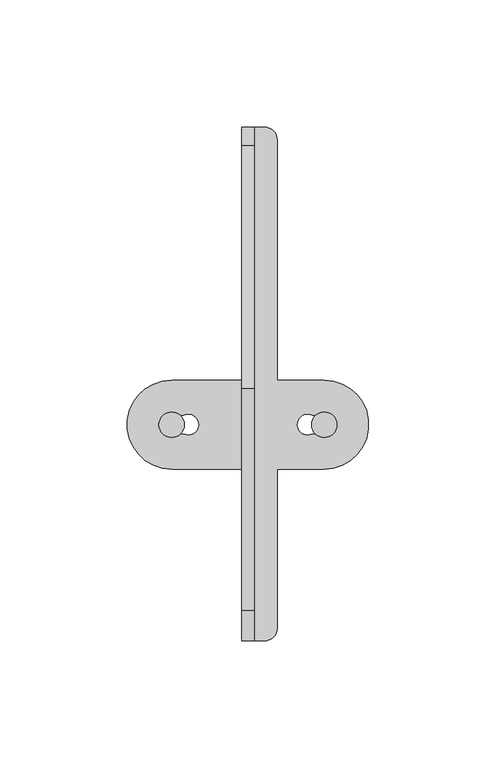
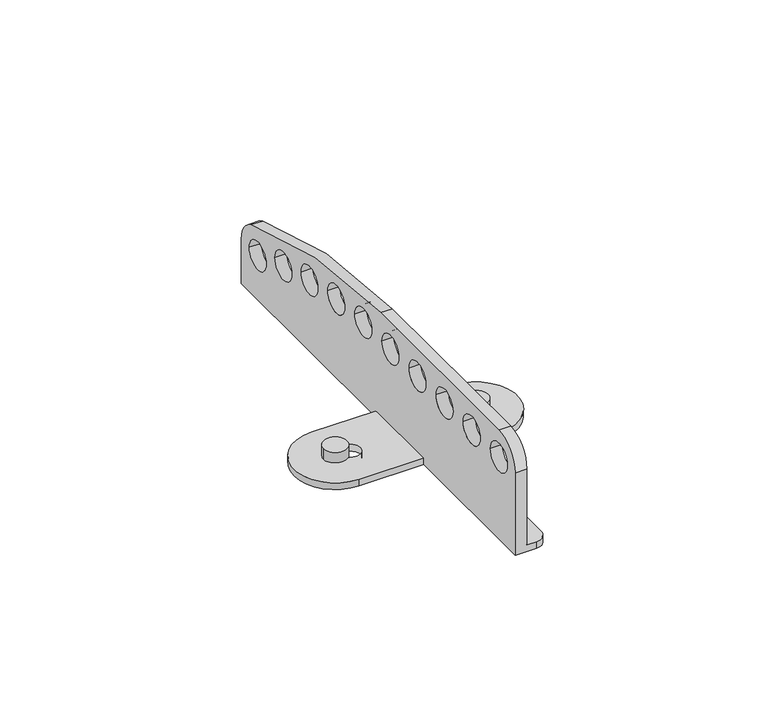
"""IFC4 building model written with IfcOpenShell, lengths in millimetres: proxy geometry, d&b E-Series E8 l E12 Flying Adapter : VP Flying Adapter."""

from ifc_helpers import new_model, si_unit, point, frame, frame_2d, origin, place, context, project, spatial, polyline, circle_curve, trimmed, segment, composite_curve, outline, extrude, source, transform, mapped, element, save
from ifc_brep_helpers import plane_surface, cylinder_surface, revolved_surface, advanced_brep


def communication_devices_d8d2d2e4(model_context):
    return source(origin(), model_context, "Body", "SolidModel", [
        advanced_brep(
        [(2.5, 117.0, 3.0), (2.5, 117.0, 20.0416075), (2.5, 109.8627971, 30.8118727), (2.5, 14.1313666, 49.2328622), (2.5, -73.0, 49.2328622), (2.5, -85.0, 37.2328622), (2.5, -85.0, 3.0), (2.5, 33.2045121, 37.1372648), (2.5, 20.7045121, 37.1372648), (2.5, 53.139556, 35.5325315), (2.5, 40.639556, 35.5325315), (2.5, 72.8873007, 32.045765), (2.5, 60.3873007, 32.045765), (2.5, 92.1826621, 26.7881623), (2.5, 79.6826621, 26.7881623), (2.5, 111.049806, 19.9580874), (2.5, 98.549806, 19.9580874), (2.5, 13.2045121, 37.1372648), (2.5, 0.7045121, 37.1372648), (2.5, -6.7954879, 37.1372648), (2.5, -19.2954879, 37.1372648), (2.5, -26.7954879, 37.1372648), (2.5, -39.2954879, 37.1372648), (2.5, -46.7954879, 37.1372648), (2.5, -59.2954879, 37.1372648), (2.5, -66.7954879, 37.1372648), (2.5, -79.2954879, 37.1372648), (-2.5, -85.0, 37.2328622), (-2.5, -73.0, 49.2328622), (-2.5, 14.1313666, 49.2328622), (-2.5, 109.8627971, 30.8118727), (-2.5, 117.0, 20.0416075), (-2.5, 117.0, 0.0), (-2.5, 17.5, 0.0), (-2.5, 17.5, 3.0), (-2.5, -17.5, 3.0), (-2.5, -17.5, 0.0), (-2.5, -85.0, 0.0), (-2.5, 33.2045121, 37.1372648), (-2.5, 20.7045121, 37.1372648), (-2.5, 53.139556, 35.5325315), (-2.5, 40.639556, 35.5325315), (-2.5, 72.8873007, 32.045765), (-2.5, 60.3873007, 32.045765), (-2.5, 92.1826621, 26.7881623), (-2.5, 79.6826621, 26.7881623), (-2.5, 111.049806, 19.9580874), (-2.5, 98.549806, 19.9580874), (-2.5, 13.2045121, 37.1372648), (-2.5, 0.7045121, 37.1372648), (-2.5, -6.7954879, 37.1372648), (-2.5, -19.2954879, 37.1372648), (-2.5, -26.7954879, 37.1372648), (-2.5, -39.2954879, 37.1372648), (-2.5, -46.7954879, 37.1372648), (-2.5, -59.2954879, 37.1372648), (-2.5, -66.7954879, 37.1372648), (-2.5, -79.2954879, 37.1372648), (6.5, -85.0, 3.0), (11.5, -80.0, 3.0), (11.5, -17.5, 3.0), (30.0, -17.5, 3.0), (30.0, 17.5, 3.0), (11.5, 17.5, 3.0), (11.5, 112.0, 3.0), (6.5, 117.0, 3.0), (25.4364917, 3.5, 3.0), (31.5, 3.5, 3.0), (31.5, -3.5, 3.0), (25.4364917, -3.5, 3.0), (-30.0, 17.5, 3.0), (-30.0, -17.5, 3.0), (-25.4364917, 3.5, 3.0), (-25.4364917, -3.5, 3.0), (-31.5, -3.5, 3.0), (-31.5, 3.5, 3.0), (-30.0, -17.5, 0.0), (-30.0, 17.5, 0.0), (6.5, 117.0, 0.0), (11.5, 112.0, 0.0), (11.5, 17.5, 0.0), (30.0, 17.5, 0.0), (30.0, -17.5, 0.0), (11.5, -17.5, 0.0), (11.5, -80.0, 0.0), (6.5, -85.0, 0.0), (-25.4364917, 3.5, 0.0), (-31.5, 3.5, 0.0), (-31.5, -3.5, 0.0), (-25.4364917, -3.5, 0.0), (25.4364917, 3.5, 0.0), (25.4364917, -3.5, 0.0), (31.5, -3.5, 0.0), (31.5, 3.5, 0.0)],
        [
            (0, 1),
            (1, 2, circle_curve(frame((2.5, 105.3050628, 20.0416075), z_axis=(1.0, 0.0, 0.0), x_axis=(0.0, -1.0, 0.0)), 11.6949372)),
            (2, 3, circle_curve(frame((2.5, 14.1313666, -208.729384), z_axis=(1.0, 0.0, 0.0), x_axis=(0.0, -1.0, 0.0)), 257.9622462)),
            (3, 4),
            (4, 5, circle_curve(frame((2.5, -73.0, 37.2328622), z_axis=(1.0, 0.0, 0.0), x_axis=(0.0, -1.0, 0.0)), 12.0)),
            (5, 6),
            (6, 0),
            (7, 8, circle_curve(frame((2.5, 26.9545121, 37.1372648), z_axis=(-1.0, 0.0, 0.0), x_axis=(0.0, -1.0, 0.0)), 6.25)),
            (8, 7, circle_curve(frame((2.5, 26.9545121, 37.1372648), z_axis=(-1.0, 0.0, 0.0), x_axis=(0.0, -1.0, 0.0)), 6.25)),
            (9, 10, circle_curve(frame((2.5, 46.889556, 35.5325315), z_axis=(-1.0, 0.0, 0.0), x_axis=(0.0, -1.0, 0.0)), 6.25)),
            (10, 9, circle_curve(frame((2.5, 46.889556, 35.5325315), z_axis=(-1.0, 0.0, 0.0), x_axis=(0.0, -1.0, 0.0)), 6.25)),
            (11, 12, circle_curve(frame((2.5, 66.6373007, 32.045765), z_axis=(-1.0, 0.0, 0.0), x_axis=(0.0, -1.0, 0.0)), 6.25)),
            (12, 11, circle_curve(frame((2.5, 66.6373007, 32.045765), z_axis=(-1.0, 0.0, 0.0), x_axis=(0.0, -1.0, 0.0)), 6.25)),
            (13, 14, circle_curve(frame((2.5, 85.9326621, 26.7881623), z_axis=(-1.0, 0.0, 0.0), x_axis=(0.0, -1.0, 0.0)), 6.25)),
            (14, 13, circle_curve(frame((2.5, 85.9326621, 26.7881623), z_axis=(-1.0, 0.0, 0.0), x_axis=(0.0, -1.0, 0.0)), 6.25)),
            (15, 16, circle_curve(frame((2.5, 104.799806, 19.9580874), z_axis=(-1.0, 0.0, 0.0), x_axis=(0.0, -1.0, 0.0)), 6.25)),
            (16, 15, circle_curve(frame((2.5, 104.799806, 19.9580874), z_axis=(-1.0, 0.0, 0.0), x_axis=(0.0, -1.0, 0.0)), 6.25)),
            (17, 18, circle_curve(frame((2.5, 6.9545121, 37.1372648), z_axis=(-1.0, 0.0, 0.0), x_axis=(0.0, -1.0, 0.0)), 6.25)),
            (18, 17, circle_curve(frame((2.5, 6.9545121, 37.1372648), z_axis=(-1.0, 0.0, 0.0), x_axis=(0.0, -1.0, 0.0)), 6.25)),
            (19, 20, circle_curve(frame((2.5, -13.0454879, 37.1372648), z_axis=(-1.0, 0.0, 0.0), x_axis=(0.0, -1.0, 0.0)), 6.25)),
            (20, 19, circle_curve(frame((2.5, -13.0454879, 37.1372648), z_axis=(-1.0, 0.0, 0.0), x_axis=(0.0, -1.0, 0.0)), 6.25)),
            (21, 22, circle_curve(frame((2.5, -33.0454879, 37.1372648), z_axis=(-1.0, 0.0, 0.0), x_axis=(0.0, -1.0, 0.0)), 6.25)),
            (22, 21, circle_curve(frame((2.5, -33.0454879, 37.1372648), z_axis=(-1.0, 0.0, 0.0), x_axis=(0.0, -1.0, 0.0)), 6.25)),
            (23, 24, circle_curve(frame((2.5, -53.0454879, 37.1372648), z_axis=(-1.0, 0.0, 0.0), x_axis=(0.0, -1.0, 0.0)), 6.25)),
            (24, 23, circle_curve(frame((2.5, -53.0454879, 37.1372648), z_axis=(-1.0, 0.0, 0.0), x_axis=(0.0, -1.0, 0.0)), 6.25)),
            (25, 26, circle_curve(frame((2.5, -73.0454879, 37.1372648), z_axis=(-1.0, 0.0, 0.0), x_axis=(0.0, -1.0, 0.0)), 6.25)),
            (26, 25, circle_curve(frame((2.5, -73.0454879, 37.1372648), z_axis=(-1.0, 0.0, 0.0), x_axis=(0.0, -1.0, 0.0)), 6.25)),
            (27, 28, circle_curve(frame((-2.5, -73.0, 37.2328622), z_axis=(-1.0, 0.0, 0.0), x_axis=(0.0, -1.0, 0.0)), 12.0)),
            (28, 29),
            (29, 30, circle_curve(frame((-2.5, 14.1313666, -208.729384), z_axis=(-1.0, 0.0, 0.0), x_axis=(0.0, -1.0, 0.0)), 257.9622462)),
            (30, 31, circle_curve(frame((-2.5, 105.3050628, 20.0416075), z_axis=(-1.0, 0.0, 0.0), x_axis=(0.0, -1.0, 0.0)), 11.6949372)),
            (31, 32),
            (32, 33),
            (33, 34),
            (34, 35),
            (35, 36),
            (36, 37),
            (37, 27),
            (38, 39, circle_curve(frame((-2.5, 26.9545121, 37.1372648), z_axis=(1.0, 0.0, 0.0), x_axis=(0.0, -1.0, 0.0)), 6.25)),
            (39, 38, circle_curve(frame((-2.5, 26.9545121, 37.1372648), z_axis=(1.0, 0.0, 0.0), x_axis=(0.0, -1.0, 0.0)), 6.25)),
            (40, 41, circle_curve(frame((-2.5, 46.889556, 35.5325315), z_axis=(1.0, 0.0, 0.0), x_axis=(0.0, -1.0, 0.0)), 6.25)),
            (41, 40, circle_curve(frame((-2.5, 46.889556, 35.5325315), z_axis=(1.0, 0.0, 0.0), x_axis=(0.0, -1.0, 0.0)), 6.25)),
            (42, 43, circle_curve(frame((-2.5, 66.6373007, 32.045765), z_axis=(1.0, 0.0, 0.0), x_axis=(0.0, -1.0, 0.0)), 6.25)),
            (43, 42, circle_curve(frame((-2.5, 66.6373007, 32.045765), z_axis=(1.0, 0.0, 0.0), x_axis=(0.0, -1.0, 0.0)), 6.25)),
            (44, 45, circle_curve(frame((-2.5, 85.9326621, 26.7881623), z_axis=(1.0, 0.0, 0.0), x_axis=(0.0, -1.0, 0.0)), 6.25)),
            (45, 44, circle_curve(frame((-2.5, 85.9326621, 26.7881623), z_axis=(1.0, 0.0, 0.0), x_axis=(0.0, -1.0, 0.0)), 6.25)),
            (46, 47, circle_curve(frame((-2.5, 104.799806, 19.9580874), z_axis=(1.0, 0.0, 0.0), x_axis=(0.0, -1.0, 0.0)), 6.25)),
            (47, 46, circle_curve(frame((-2.5, 104.799806, 19.9580874), z_axis=(1.0, 0.0, 0.0), x_axis=(0.0, -1.0, 0.0)), 6.25)),
            (48, 49, circle_curve(frame((-2.5, 6.9545121, 37.1372648), z_axis=(1.0, 0.0, 0.0), x_axis=(0.0, -1.0, 0.0)), 6.25)),
            (49, 48, circle_curve(frame((-2.5, 6.9545121, 37.1372648), z_axis=(1.0, 0.0, 0.0), x_axis=(0.0, -1.0, 0.0)), 6.25)),
            (50, 51, circle_curve(frame((-2.5, -13.0454879, 37.1372648), z_axis=(1.0, 0.0, 0.0), x_axis=(0.0, -1.0, 0.0)), 6.25)),
            (51, 50, circle_curve(frame((-2.5, -13.0454879, 37.1372648), z_axis=(1.0, 0.0, 0.0), x_axis=(0.0, -1.0, 0.0)), 6.25)),
            (52, 53, circle_curve(frame((-2.5, -33.0454879, 37.1372648), z_axis=(1.0, 0.0, 0.0), x_axis=(0.0, -1.0, 0.0)), 6.25)),
            (53, 52, circle_curve(frame((-2.5, -33.0454879, 37.1372648), z_axis=(1.0, 0.0, 0.0), x_axis=(0.0, -1.0, 0.0)), 6.25)),
            (54, 55, circle_curve(frame((-2.5, -53.0454879, 37.1372648), z_axis=(1.0, 0.0, 0.0), x_axis=(0.0, -1.0, 0.0)), 6.25)),
            (55, 54, circle_curve(frame((-2.5, -53.0454879, 37.1372648), z_axis=(1.0, 0.0, 0.0), x_axis=(0.0, -1.0, 0.0)), 6.25)),
            (56, 57, circle_curve(frame((-2.5, -73.0454879, 37.1372648), z_axis=(1.0, 0.0, 0.0), x_axis=(0.0, -1.0, 0.0)), 6.25)),
            (57, 56, circle_curve(frame((-2.5, -73.0454879, 37.1372648), z_axis=(1.0, 0.0, 0.0), x_axis=(0.0, -1.0, 0.0)), 6.25)),
            (7, 38),
            (39, 8),
            (9, 40),
            (41, 10),
            (11, 42),
            (43, 12),
            (13, 44),
            (45, 14),
            (15, 46),
            (47, 16),
            (58, 59, circle_curve(frame((6.5, -80.0, 3.0), z_axis=(0.0, 0.0, 1.0), x_axis=(1.0, 0.0, 0.0)), 5.0)),
            (59, 60),
            (60, 61),
            (61, 62, circle_curve(frame((30.0, 0.0, 3.0), z_axis=(0.0, 0.0, 1.0), x_axis=(1.0, 0.0, 0.0)), 17.5)),
            (62, 63),
            (63, 64),
            (64, 65, circle_curve(frame((6.5, 112.0, 3.0), z_axis=(0.0, 0.0, 1.0), x_axis=(1.0, 0.0, 0.0)), 5.0)),
            (65, 0),
            (6, 58),
            (66, 67),
            (67, 68, circle_curve(frame((31.5, 0.0, 3.0), z_axis=(0.0, 0.0, -1.0), x_axis=(-1.0, 0.0, 0.0)), 3.5)),
            (68, 69),
            (69, 66, circle_curve(frame((23.4436834, 0.0, 3.0), z_axis=(0.0, 0.0, -1.0), x_axis=(-1.0, 0.0, 0.0)), 4.0275656)),
            (34, 70),
            (70, 71, circle_curve(frame((-30.0, 0.0, 3.0), z_axis=(0.0, 0.0, 1.0), x_axis=(1.0, 0.0, 0.0)), 17.5)),
            (71, 35),
            (72, 73, circle_curve(frame((-23.4436834, 0.0, 3.0), z_axis=(0.0, 0.0, -1.0), x_axis=(1.0, 0.0, 0.0)), 4.0275656)),
            (73, 74),
            (74, 75, circle_curve(frame((-31.5, 0.0, 3.0), z_axis=(0.0, 0.0, -1.0), x_axis=(1.0, 0.0, 0.0)), 3.5)),
            (75, 72),
            (36, 76),
            (76, 77, circle_curve(frame((-30.0, 0.0, 0.0), z_axis=(0.0, 0.0, -1.0), x_axis=(1.0, 0.0, 0.0)), 17.5)),
            (77, 33),
            (32, 78),
            (78, 79, circle_curve(frame((6.5, 112.0, 0.0), z_axis=(0.0, 0.0, -1.0), x_axis=(1.0, 0.0, 0.0)), 5.0)),
            (79, 80),
            (80, 81),
            (81, 82, circle_curve(frame((30.0, 0.0, 0.0), z_axis=(0.0, 0.0, -1.0), x_axis=(1.0, 0.0, 0.0)), 17.5)),
            (82, 83),
            (83, 84),
            (84, 85, circle_curve(frame((6.5, -80.0, 0.0), z_axis=(0.0, 0.0, -1.0), x_axis=(1.0, 0.0, 0.0)), 5.0)),
            (85, 37),
            (86, 87),
            (87, 88, circle_curve(frame((-31.5, 0.0, 0.0), z_axis=(0.0, 0.0, 1.0), x_axis=(1.0, 0.0, 0.0)), 3.5)),
            (88, 89),
            (89, 86, circle_curve(frame((-23.4436834, 0.0, 0.0), z_axis=(0.0, 0.0, 1.0), x_axis=(1.0, 0.0, 0.0)), 4.0275656)),
            (90, 91, circle_curve(frame((23.4436834, 0.0, 0.0), z_axis=(0.0, 0.0, 1.0), x_axis=(-1.0, 0.0, 0.0)), 4.0275656)),
            (91, 92),
            (92, 93, circle_curve(frame((31.5, 0.0, 0.0), z_axis=(0.0, 0.0, 1.0), x_axis=(-1.0, 0.0, 0.0)), 3.5)),
            (93, 90),
            (65, 78),
            (31, 1),
            (30, 2),
            (3, 29),
            (28, 4),
            (27, 5),
            (85, 58),
            (17, 48),
            (49, 18),
            (19, 50),
            (51, 20),
            (21, 52),
            (53, 22),
            (23, 54),
            (55, 24),
            (25, 56),
            (57, 26),
            (84, 59),
            (83, 60),
            (82, 61),
            (81, 62),
            (80, 63),
            (79, 64),
            (77, 70),
            (76, 71),
            (72, 86),
            (89, 73),
            (88, 74),
            (87, 75),
            (66, 90),
            (93, 67),
            (92, 68),
            (91, 69),
        ],
        [
            plane_surface(frame((2.5, 20.7045121, 37.1372648), z_axis=(1.0, 0.0, 0.0), x_axis=(0.0, 0.0, 1.0))),
            plane_surface(frame((-2.5, 20.7045121, 37.1372648), z_axis=(-1.0, 0.0, 0.0), x_axis=(0.0, 0.0, -1.0))),
            revolved_surface(polyline([(-2.5, 20.7045121, 37.1372648), (2.5, 20.7045121, 37.1372648)]), (-2.5, 26.9545121, 37.1372648), (-1.0, 0.0, 0.0)),
            revolved_surface(polyline([(-2.5, 40.639556, 35.5325315), (2.5, 40.639556, 35.5325315)]), (0.0, 46.889556, 35.5325315), (-1.0, 0.0, 0.0)),
            revolved_surface(polyline([(-2.5, 60.3873007, 32.045765), (2.5, 60.3873007, 32.045765)]), (0.0, 66.6373007, 32.045765), (-1.0, 0.0, 0.0)),
            revolved_surface(polyline([(-2.5, 79.6826621, 26.7881623), (2.5, 79.6826621, 26.7881623)]), (0.0, 85.9326621, 26.7881623), (-1.0, 0.0, 0.0)),
            revolved_surface(polyline([(-2.5, 98.549806, 19.9580874), (2.5, 98.549806, 19.9580874)]), (0.0, 104.799806, 19.9580874), (-1.0, 0.0, 0.0)),
            plane_surface(frame((6.5, -85.0, 3.0), z_axis=(0.0, 0.0, 1.0), x_axis=(1.0, 0.0, 0.0))),
            plane_surface(frame((6.5, -85.0, 0.0), z_axis=(0.0, 0.0, -1.0), x_axis=(-1.0, 0.0, 0.0))),
            plane_surface(frame((2.5, 117.0, 3.0), z_axis=(0.0, 1.0, 0.0), x_axis=(-1.0, 0.0, 0.0))),
            cylinder_surface(frame((0.0, 105.3050628, 20.0416075), z_axis=(1.0, 0.0, 0.0), x_axis=(0.0, -1.0, 0.0)), 11.6949372),
            plane_surface(frame((2.5, 14.1313666, 49.2328622), z_axis=(0.0, 0.0, 1.0), x_axis=(-1.0, 0.0, 0.0))),
            cylinder_surface(frame((0.0, -73.0, 37.2328622), z_axis=(1.0, 0.0, 0.0), x_axis=(0.0, -1.0, 0.0)), 12.0),
            plane_surface(frame((2.5, -85.0, 37.2328622), z_axis=(0.0, -1.0, 0.0), x_axis=(-1.0, 0.0, 0.0))),
            revolved_surface(polyline([(-2.5, 0.7045120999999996, 37.1372648), (2.5, 0.7045120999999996, 37.1372648)]), (0.0, 6.9545121, 37.1372648), (-1.0, 0.0, 0.0)),
            revolved_surface(polyline([(-2.5, -19.295487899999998, 37.1372648), (2.5, -19.295487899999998, 37.1372648)]), (0.0, -13.0454879, 37.1372648), (-1.0, 0.0, 0.0)),
            revolved_surface(polyline([(-2.5, -39.2954879, 37.1372648), (2.5, -39.2954879, 37.1372648)]), (0.0, -33.0454879, 37.1372648), (-1.0, 0.0, 0.0)),
            revolved_surface(polyline([(-2.5, -59.2954879, 37.1372648), (2.5, -59.2954879, 37.1372648)]), (0.0, -53.0454879, 37.1372648), (-1.0, 0.0, 0.0)),
            revolved_surface(polyline([(-2.5, -79.2954879, 37.1372648), (2.5, -79.2954879, 37.1372648)]), (0.0, -73.0454879, 37.1372648), (-1.0, 0.0, 0.0)),
            cylinder_surface(frame((6.5, -80.0, 0.0), z_axis=(0.0, 0.0, 1.0), x_axis=(1.0, 0.0, 0.0)), 5.0),
            plane_surface(frame((11.5, -80.0, 3.0), z_axis=(1.0, 0.0, 0.0), x_axis=(0.0, 0.0, -1.0))),
            plane_surface(frame((11.5, -17.5, 3.0), z_axis=(0.0, -1.0, 0.0), x_axis=(0.0, 0.0, -1.0))),
            cylinder_surface(frame((30.0, 0.0, 0.0), z_axis=(0.0, 0.0, 1.0), x_axis=(1.0, 0.0, 0.0)), 17.5),
            plane_surface(frame((30.0, 17.5, 3.0), z_axis=(0.0, 1.0, 0.0), x_axis=(0.0, 0.0, -1.0))),
            plane_surface(frame((11.5, 17.5, 3.0), z_axis=(1.0, 0.0, 0.0), x_axis=(0.0, 0.0, -1.0))),
            cylinder_surface(frame((6.5, 112.0, 0.0), z_axis=(0.0, 0.0, 1.0), x_axis=(1.0, 0.0, 0.0)), 5.0),
            plane_surface(frame((-2.5, 17.5, 3.0), z_axis=(0.0, 1.0, 0.0), x_axis=(0.0, 0.0, -1.0))),
            cylinder_surface(frame((-30.0, 0.0, 0.0), z_axis=(0.0, 0.0, 1.0), x_axis=(1.0, 0.0, 0.0)), 17.5),
            plane_surface(frame((-30.0, -17.5, 3.0), z_axis=(0.0, -1.0, 0.0), x_axis=(0.0, 0.0, -1.0))),
            revolved_surface(polyline([(-19.416117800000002, 0.0, 0.0), (-19.416117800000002, 0.0, 3.0)]), (-23.4436834, 0.0, 0.0), (0.0, 0.0, -1.0)),
            plane_surface(frame((-25.4364917, -3.5, 3.0), z_axis=(0.0, 1.0, 0.0), x_axis=(0.0, 0.0, -1.0))),
            revolved_surface(polyline([(-28.0, 0.0, 0.0), (-28.0, 0.0, 3.0)]), (-31.5, 0.0, 0.0), (0.0, 0.0, -1.0)),
            plane_surface(frame((-31.5, 3.5, 3.0), z_axis=(0.0, -1.0, 0.0), x_axis=(0.0, 0.0, -1.0))),
            plane_surface(frame((25.4364917, 3.5, 3.0), z_axis=(0.0, -1.0, 0.0), x_axis=(0.0, 0.0, -1.0))),
            revolved_surface(polyline([(28.0, 0.0, 0.0), (28.0, 0.0, 3.0)]), (31.5, 0.0, 0.0), (0.0, 0.0, -1.0)),
            plane_surface(frame((31.5, -3.5, 3.0), z_axis=(0.0, 1.0, 0.0), x_axis=(0.0, 0.0, -1.0))),
            revolved_surface(polyline([(19.416117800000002, 0.0, 0.0), (19.416117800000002, 0.0, 3.0)]), (23.4436834, 0.0, 0.0), (0.0, 0.0, -1.0)),
            cylinder_surface(frame((0.0, 14.1313666, -208.729384), z_axis=(1.0, 0.0, 0.0), x_axis=(0.0, -1.0, 0.0)), 257.9622462),
        ],
        [
            (0, [[1, 2, 3, 4, 5, 6, 7], [8, 9], [10, 11], [12, 13], [14, 15], [16, 17], [18, 19], [20, 21], [22, 23], [24, 25], [26, 27]]),
            (1, [[28, 29, 30, 31, 32, 33, 34, 35, 36, 37, 38], [39, 40], [41, 42], [43, 44], [45, 46], [47, 48], [49, 50], [51, 52], [53, 54], [55, 56], [57, 58]]),
            (2, [[-8, 59, -40, 60]]),
            (2, [[-9, -60, -39, -59]]),
            (3, [[-10, 61, -42, 62]]),
            (3, [[-11, -62, -41, -61]]),
            (4, [[-12, 63, -44, 64]]),
            (4, [[-13, -64, -43, -63]]),
            (5, [[-14, 65, -46, 66]]),
            (5, [[-15, -66, -45, -65]]),
            (6, [[-16, 67, -48, 68]]),
            (6, [[-17, -68, -47, -67]]),
            (7, [[69, 70, 71, 72, 73, 74, 75, 76, -7, 77], [78, 79, 80, 81]]),
            (7, [[82, 83, 84, -35], [85, 86, 87, 88]]),
            (8, [[-37, 89, 90, 91, -33, 92, 93, 94, 95, 96, 97, 98, 99, 100], [101, 102, 103, 104], [105, 106, 107, 108]]),
            (9, [[-1, -76, 109, -92, -32, 110]]),
            (10, [[-2, -110, -31, 111]]),
            (11, [[-4, 112, -29, 113]]),
            (12, [[-5, -113, -28, 114]]),
            (13, [[-6, -114, -38, -100, 115, -77]]),
            (14, [[-18, 116, -50, 117]]),
            (14, [[-19, -117, -49, -116]]),
            (15, [[-20, 118, -52, 119]]),
            (15, [[-21, -119, -51, -118]]),
            (16, [[-22, 120, -54, 121]]),
            (16, [[-23, -121, -53, -120]]),
            (17, [[-24, 122, -56, 123]]),
            (17, [[-25, -123, -55, -122]]),
            (18, [[-26, 124, -58, 125]]),
            (18, [[-27, -125, -57, -124]]),
            (19, [[-69, -115, -99, 126]]),
            (20, [[-70, -126, -98, 127]]),
            (21, [[-71, -127, -97, 128]]),
            (22, [[-72, -128, -96, 129]]),
            (23, [[-73, -129, -95, 130]]),
            (24, [[-74, -130, -94, 131]]),
            (25, [[-75, -131, -93, -109]]),
            (26, [[-82, -34, -91, 132]]),
            (27, [[-83, -132, -90, 133]]),
            (28, [[-84, -133, -89, -36]]),
            (29, [[-85, 134, -104, 135]]),
            (30, [[-86, -135, -103, 136]]),
            (31, [[-87, -136, -102, 137]]),
            (32, [[-88, -137, -101, -134]]),
            (33, [[-78, 138, -108, 139]]),
            (34, [[-79, -139, -107, 140]]),
            (35, [[-80, -140, -106, 141]]),
            (36, [[-81, -141, -105, -138]]),
            (37, [[-3, -111, -30, -112]]),
        ],
    ),
        extrude(outline(composite_curve([segment(trimmed(circle_curve(frame_2d((-30.0, 0.0)), 5.0), [point((-35.0, 0.0))], [point((-25.0, 0.0))], False, "CARTESIAN"), True, "CONTINUOUS"), segment(trimmed(circle_curve(frame_2d((-30.0, 0.0)), 5.0), [point((-25.0, 0.0))], [point((-35.0, 0.0))], False, "CARTESIAN"), True, "CONTINUOUS")], self_intersect=False)), frame((0.0, 0.0, 3.0), z_axis=(0.0, 0.0, 1.0), x_axis=(1.0, 0.0, 0.0)), (0.0, 0.0, 1.0), 5.0),
        extrude(outline(composite_curve([segment(trimmed(circle_curve(frame_2d((30.0, 0.0)), 5.0), [point((35.0, 0.0))], [point((25.0, 0.0))], False, "CARTESIAN"), True, "CONTINUOUS"), segment(trimmed(circle_curve(frame_2d((30.0, 0.0)), 5.0), [point((25.0, 0.0))], [point((35.0, 0.0))], False, "CARTESIAN"), True, "CONTINUOUS")], self_intersect=False)), frame((0.0, 0.0, 3.0), z_axis=(0.0, 0.0, 1.0), x_axis=(1.0, 0.0, 0.0)), (0.0, 0.0, 1.0), 5.0),
    ])


if __name__ == "__main__":
    model = new_model("IFC4")
    model_context = context("Model", 3, world=origin())
    ifc_project = project(units=[si_unit("LENGTHUNIT", "METRE", prefix="MILLI")], contexts=[model_context])
    site = spatial("IfcSite", under=ifc_project)
    building = spatial("IfcBuilding", under=site)
    placement = place(None, origin())
    communication_devices_shape = communication_devices_d8d2d2e4(model_context)
    element("IfcBuildingElementProxy", 1, Name="d&b E-Series E8 l E12 Flying Adapter : VP Flying Adapter", ObjectType="d&b E-Series E8 l E12 Flying Adapter : VP Flying Adapter", at=placement, inside=building, context=model_context, shape_type="MappedRepresentation", body=[
        mapped(communication_devices_shape, transform((0.0, 0.0, 0.0), x_axis=(1.0, 0.0, 0.0), y_axis=(0.0, 1.0, 0.0), z_axis=(0.0, 0.0, 1.0))),
    ])
    save(model, "model.ifc")
